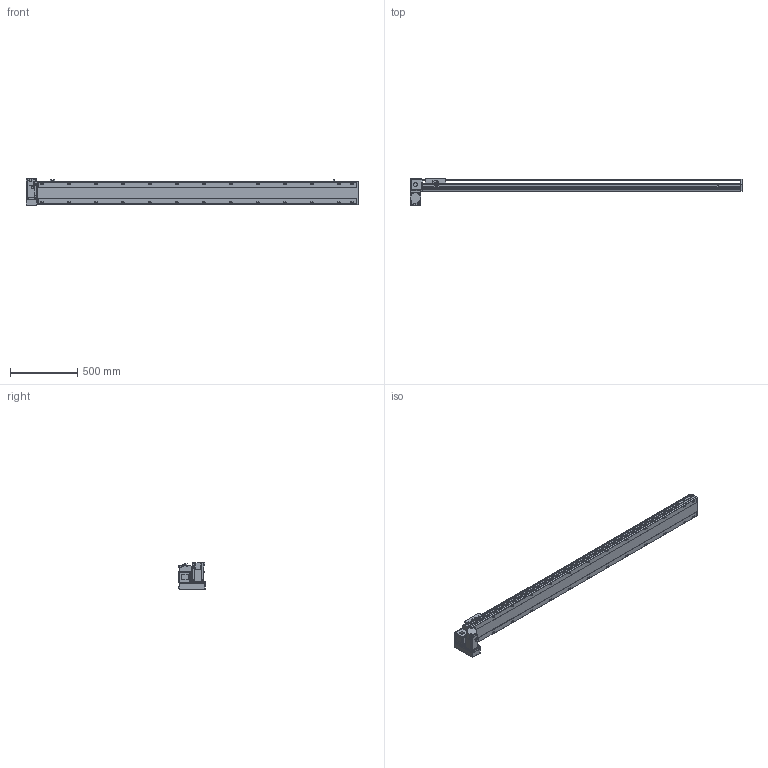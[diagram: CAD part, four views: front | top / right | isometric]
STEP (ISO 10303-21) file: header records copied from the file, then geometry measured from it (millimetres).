
FILE_DESCRIPTION( ( 'STEP AP214' ), '1' );
FILE_NAME( 'x:/temp/worker_4/temp/exporttempdir_2248_353_WxAP1/format_0/PBS170-P40-S2100-LD-T75-C1-N(0).stp', '2022-06-07T07:54:58', ( 'License CC BY-ND 4.0' ), ( 'CADENAS' ), ' ', 'PARTsolutions', ' ' );
FILE_SCHEMA( ( 'AUTOMOTIVE_DESIGN { 1 0 10303 214 1 1 1 1 }' ) );
Length unit declared in the file: millimetre
Products named in the file (7): PBS170-P40-S2100-LD-T75-C1-N(0); _PBS170-S2100()_body; _PBS170T-LD_motors; _T75-p1; _PBS170_sliser; _PBS170_plant; _PBS170_sensor
Assembly tree (8 placements, depth 2):
  PBS170-P40-S2100-LD-T75-C1-N(0)
    _PBS170-S2100()_body
    _PBS170T-LD_motors
    _T75-p1
    _PBS170_sliser
    _PBS170_plant
    _PBS170_sensor  x3
Bounding box: 2463 x 201 x 197.3 mm (x, y, z)
Volume: 18827173.3 mm3; surface area: 2386226.9 mm2
Topology: 8 solids, 8 shells, 1162 faces, 3075 edges, 2004 vertices
Faces by surface type: plane 717, cylinder 379, cone 56, sphere 8, torus 2
Full cylindrical faces by diameter (mm): 3.242 x4, 4 x2, 4.4 x4, 4.5 x6, 4.917 x4, 6 x9, 6.647 x34, 7 x2, 7.5 x4, 8 x8, 8.5 x26, 10 x4, 10.5 x26, 11 x2, 30 x2, 40 x1, 70 x1
Entity records: 42950 total; most frequent: CARTESIAN_POINT 7061, DIRECTION 5650, ORIENTED_EDGE 5328, EDGE_CURVE 2664, AXIS2_PLACEMENT_3D 1987, VERTEX_POINT 1850, LINE 1676, VECTOR 1676
